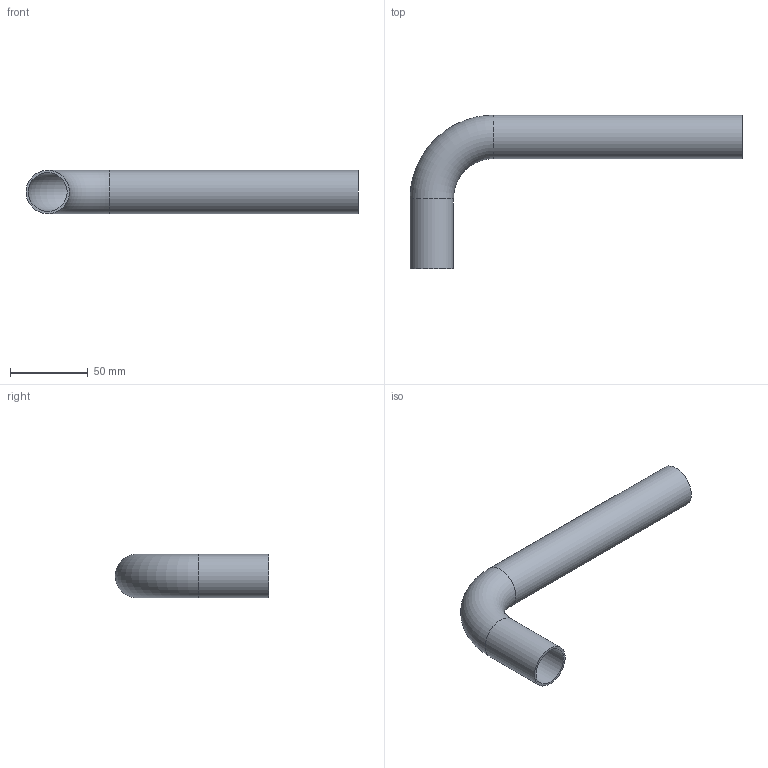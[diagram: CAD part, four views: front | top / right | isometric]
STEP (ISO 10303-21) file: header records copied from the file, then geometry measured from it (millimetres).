
FILE_DESCRIPTION((''),'2;1');
FILE_NAME('G:\Technics\CAD\Bauteile\028\6900328(1).stp','2008-02-25T08:36:49',('herberg'),(''),'Autodesk Inventor 2008','Autodesk Inventor 2008','');
FILE_SCHEMA(('AUTOMOTIVE_DESIGN { 1 0 10303 214 1 1 1 1 }'));
Length unit declared in the file: millimetre
Products named in the file (1): 6900328(1)
Bounding box: 214 x 99 x 28 mm (x, y, z)
Volume: 33446.4 mm3; surface area: 44844.9 mm2
Topology: 1 solids, 1 shells, 8 faces, 14 edges, 8 vertices
Faces by surface type: cylinder 4, torus 2, plane 2
Full cylindrical faces by diameter (mm): 25 x2, 28 x2
Entity records: 194 total; most frequent: DIRECTION 34, CARTESIAN_POINT 25, AXIS2_PLACEMENT_3D 17, ORIENTED_EDGE 16, EDGE_LOOP 16, VERTEX_POINT 8, CIRCLE 8, EDGE_CURVE 8
